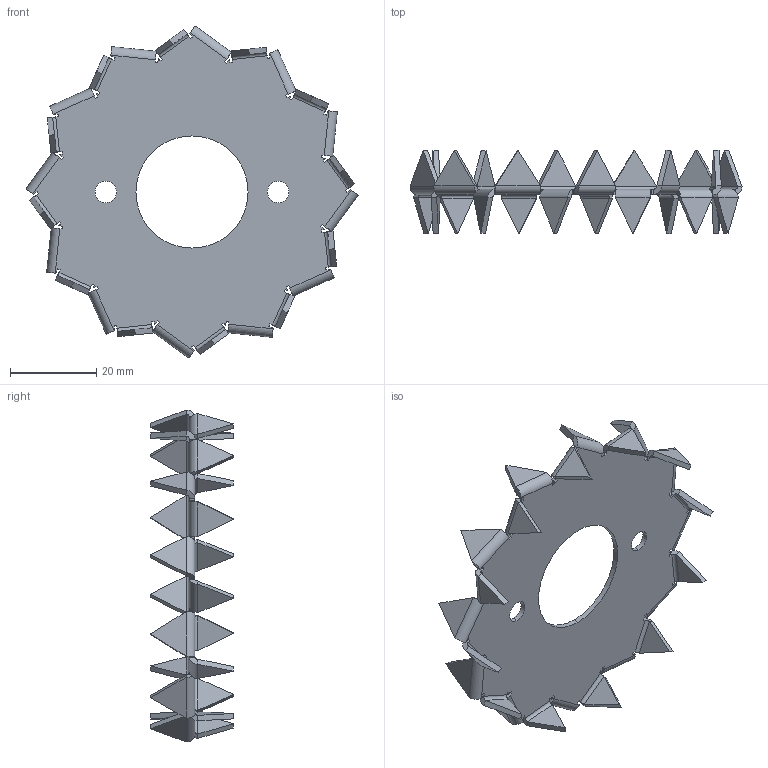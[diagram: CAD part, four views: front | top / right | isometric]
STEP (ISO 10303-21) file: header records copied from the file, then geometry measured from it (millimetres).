
FILE_DESCRIPTION (( 'STEP AP203' ), '1' );
FILE_NAME ('D75.STEP', '2020-05-20T14:20:45', ( '' ), ( '' ), 'SwSTEP 2.0', 'SolidWorks 2013', '' );
FILE_SCHEMA (( 'CONFIG_CONTROL_DESIGN' ));
Length unit declared in the file: millimetre
Products named in the file (1): D75
Bounding box: 77.02 x 19.25 x 77.02 mm (x, y, z)
Volume: 5516.6 mm3; surface area: 9764.6 mm2
Topology: 1 solids, 1 shells, 320 faces, 762 edges, 444 vertices
Faces by surface type: plane 266, cylinder 54
Entity records: 8987 total; most frequent: CARTESIAN_POINT 1527, ORIENTED_EDGE 1524, DIRECTION 1512, EDGE_CURVE 762, VECTOR 654, LINE 654, VERTEX_POINT 444, AXIS2_PLACEMENT_3D 429
